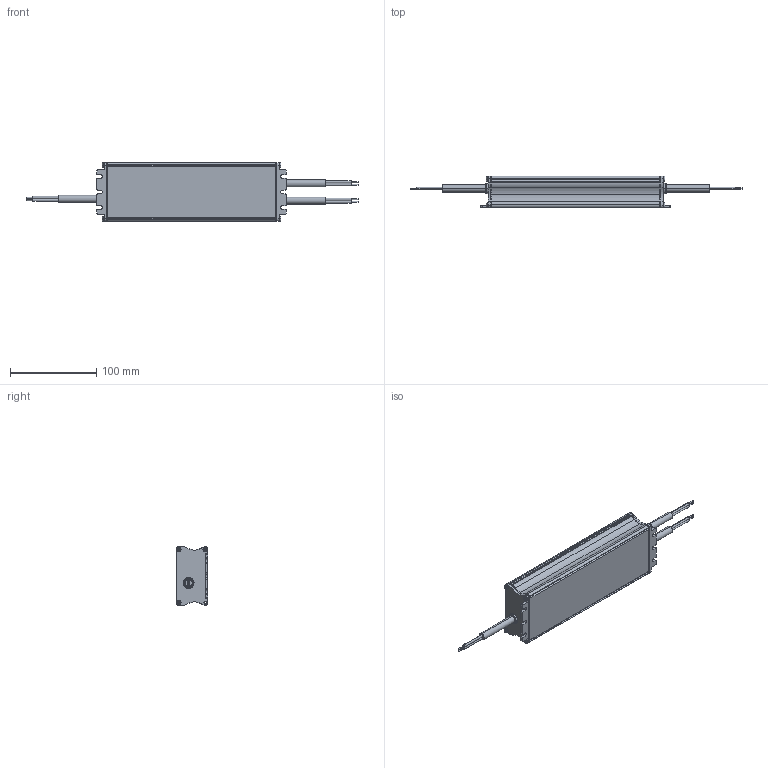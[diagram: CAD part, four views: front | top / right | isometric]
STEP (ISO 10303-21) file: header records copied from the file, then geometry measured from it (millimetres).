
FILE_DESCRIPTION((''),'2;1');
FILE_NAME('DRIVER_USCO150140GC_ASM','2016-06-13T',('TAYLOR.PH.CHAO'),(''),'PRO/ENGINEER BY PARAMETRIC TECHNOLOGY CORPORATION, 2009440','PRO/ENGINEER BY PARAMETRIC TECHNOLOGY CORPORATION, 2009440','');
FILE_SCHEMA(('CONFIG_CONTROL_DESIGN'));
Length unit declared in the file: millimetre
Products named in the file (10): HOUSING_USCO150140GC; SEALANT_OUT_USCO150140GC; BRACKET_OUT_USCO150140GC; SEALANT_IN_USCO150140GC; BRACKET_IN_USCO150140GC; PCB_USCO150140GC; SCREW_PAN-M3-10L-NI; CABLE_INPUT_CV_GEN2_100W; CABLE_OUTPUT_CV_IP67_100W; DRIVER_USCO150140GC_ASM
Assembly tree (15 placements, depth 2):
  DRIVER_USCO150140GC_ASM
    HOUSING_USCO150140GC
    SEALANT_OUT_USCO150140GC
    BRACKET_OUT_USCO150140GC
    SEALANT_IN_USCO150140GC
    BRACKET_IN_USCO150140GC
    PCB_USCO150140GC
    SCREW_PAN-M3-10L-NI  x6
    CABLE_INPUT_CV_GEN2_100W
    CABLE_OUTPUT_CV_IP67_100W  x2
Bounding box: 385 x 37 x 68 mm (x, y, z)
Volume: 142141.7 mm3; surface area: 141119.9 mm2
Topology: 15 solids, 21 shells, 1255 faces, 3383 edges, 2224 vertices
Faces by surface type: plane 799, cylinder 332, extrusion 53, cone 49, torus 22
Entity records: 34688 total; most frequent: CARTESIAN_POINT 8666, ORIENTED_EDGE 5514, DIRECTION 5061, EDGE_CURVE 2757, VECTOR 2173, LINE 2120, VERTEX_POINT 1818, AXIS2_PLACEMENT_3D 1444
